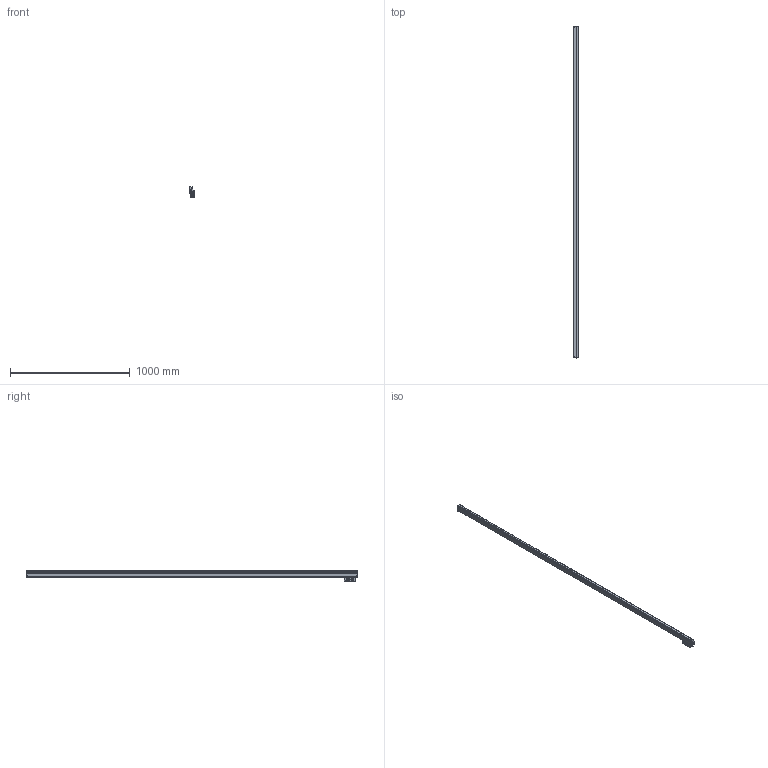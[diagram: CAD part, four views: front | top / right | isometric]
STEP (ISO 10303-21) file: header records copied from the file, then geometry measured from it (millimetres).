
FILE_DESCRIPTION(('Creo Elements/Direct Modeling STEP Export'),'2;1');
FILE_NAME('AT1123-2640.stp','2018-10-12T 9:44:21',(''),(''),'Creo Elements/Direct Modeling STEP processor for AP214 (Solid Model)','Creo Elements/Direct Modeling 18.1B 29-Sep-2012 (C) Parametric Technology GmbH','');
FILE_SCHEMA(('AUTOMOTIVE_DESIGN { 1 0 10303 214 1 1 1 1 }'));
Products named in the file (3): Scale_2640; DetectorHead; AT1123-2640
Assembly tree (2 placements, depth 2):
  AT1123-2640
    DetectorHead
    Scale_2640
Bounding box: 37 x 2768.31 x 85 mm (x, y, z)
Volume: 75071.2 mm3; surface area: 610221.7 mm2
Topology: 1 solids, 2 shells, 3742 faces, 10168 edges, 6619 vertices
Faces by surface type: plane 2145, cylinder 1345, cone 150, torus 69, bspline 13, sphere 12, extrusion 8
Entity records: 120411 total; most frequent: CARTESIAN_POINT 22580, ORIENTED_EDGE 20520, DIRECTION 19143, EDGE_CURVE 10149, VERTEX_POINT 6619, AXIS2_PLACEMENT_3D 6403, VECTOR 6337, LINE 6329
